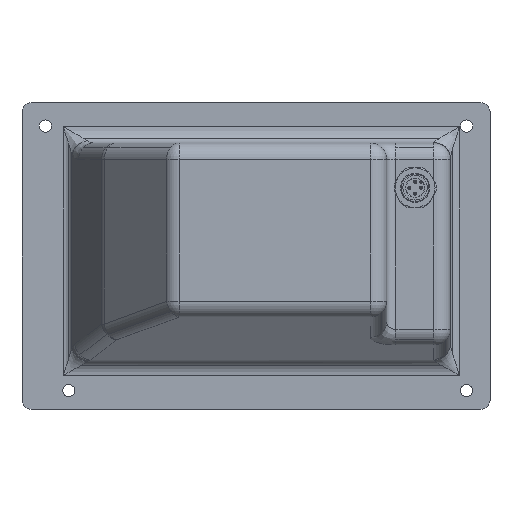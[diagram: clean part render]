
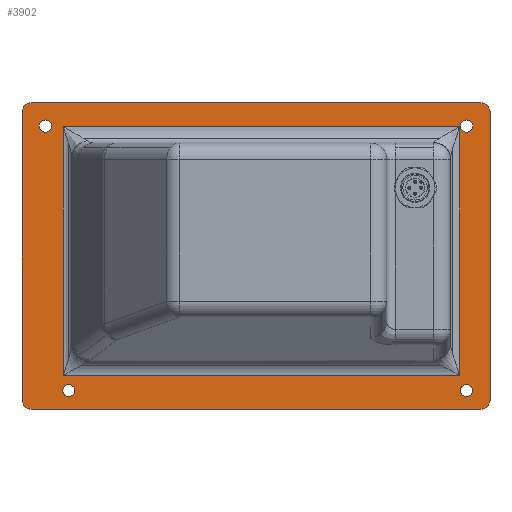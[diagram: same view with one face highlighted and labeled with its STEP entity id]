
A CAD part, left-side view. The second image highlights one B-rep face of the part: STEP entity #3902.
In plain terms, the highlighted planar face has unit normal (-1, 0, 0).
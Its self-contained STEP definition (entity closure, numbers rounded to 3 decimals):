
#2018=CARTESIAN_POINT('',(-14.,82.6,-57.55));
#2019=VERTEX_POINT('',#2018);
#2028=CARTESIAN_POINT('',(-14.,77.4,-57.55));
#2029=VERTEX_POINT('',#2028);
#2030=CARTESIAN_POINT('',(-14.,80.,-57.55));
#2031=DIRECTION('',(1.0,0.0,0.0));
#2032=DIRECTION('',(0.0,1.0,0.0));
#2033=AXIS2_PLACEMENT_3D('',#2030,#2031,#2032);
#2034=CIRCLE('',#2033,2.6);
#2035=EDGE_CURVE('',#2029,#2019,#2034,.T.);
#2143=CARTESIAN_POINT('',(-14.,-87.4,55.55));
#2144=VERTEX_POINT('',#2143);
#2153=CARTESIAN_POINT('',(-14.,-92.6,55.55));
#2154=VERTEX_POINT('',#2153);
#2155=CARTESIAN_POINT('',(-14.,-90.0,55.55));
#2156=DIRECTION('',(1.0,0.0,0.0));
#2157=DIRECTION('',(0.0,1.0,0.0));
#2158=AXIS2_PLACEMENT_3D('',#2155,#2156,#2157);
#2159=CIRCLE('',#2158,2.6);
#2160=EDGE_CURVE('',#2154,#2144,#2159,.T.);
#2259=CARTESIAN_POINT('',(-14.,92.6,55.55));
#2260=VERTEX_POINT('',#2259);
#2269=CARTESIAN_POINT('',(-14.,87.4,55.55));
#2270=VERTEX_POINT('',#2269);
#2271=CARTESIAN_POINT('',(-14.,90.0,55.55));
#2272=DIRECTION('',(1.0,0.0,0.0));
#2273=DIRECTION('',(0.0,1.0,0.0));
#2274=AXIS2_PLACEMENT_3D('',#2271,#2272,#2273);
#2275=CIRCLE('',#2274,2.6);
#2276=EDGE_CURVE('',#2270,#2260,#2275,.T.);
#2375=CARTESIAN_POINT('',(-14.,-87.4,-57.55));
#2376=VERTEX_POINT('',#2375);
#2385=CARTESIAN_POINT('',(-14.,-92.6,-57.55));
#2386=VERTEX_POINT('',#2385);
#2387=CARTESIAN_POINT('',(-14.,-90.,-57.55));
#2388=DIRECTION('',(1.0,0.0,0.0));
#2389=DIRECTION('',(0.0,1.0,0.0));
#2390=AXIS2_PLACEMENT_3D('',#2387,#2388,#2389);
#2391=CIRCLE('',#2390,2.6);
#2392=EDGE_CURVE('',#2386,#2376,#2391,.T.);
#2573=CARTESIAN_POINT('',(-14.,-87.,55.25));
#2574=VERTEX_POINT('',#2573);
#2584=CARTESIAN_POINT('',(-14.,82.38,55.25));
#2585=VERTEX_POINT('',#2584);
#2586=CARTESIAN_POINT('',(-14.,-87.,55.25));
#2587=DIRECTION('',(0.0,1.0,0.0));
#2588=VECTOR('',#2587,169.38);
#2589=LINE('',#2586,#2588);
#2590=EDGE_CURVE('',#2574,#2585,#2589,.T.);
#2892=CARTESIAN_POINT('',(-14.,-87.,-51.104));
#2893=VERTEX_POINT('',#2892);
#2907=CARTESIAN_POINT('',(-14.,-87.,55.25));
#2908=DIRECTION('',(0.0,0.0,-1.0));
#2909=VECTOR('',#2908,106.354);
#2910=LINE('',#2907,#2909);
#2911=EDGE_CURVE('',#2574,#2893,#2910,.T.);
#3058=CARTESIAN_POINT('',(-14.,98.828,64.378));
#3059=VERTEX_POINT('',#3058);
#3075=CARTESIAN_POINT('',(-14.,100.0,61.55));
#3076=VERTEX_POINT('',#3075);
#3083=CARTESIAN_POINT('',(-14.,96.0,61.55));
#3084=DIRECTION('',(1.0,0.0,0.0));
#3085=DIRECTION('',(0.0,0.707,0.707));
#3086=AXIS2_PLACEMENT_3D('',#3083,#3084,#3085);
#3087=CIRCLE('',#3086,4.);
#3088=EDGE_CURVE('',#3076,#3059,#3087,.T.);
#3100=CARTESIAN_POINT('',(-14.,98.828,-64.378));
#3101=VERTEX_POINT('',#3100);
#3117=CARTESIAN_POINT('',(-14.,96.0,-65.55));
#3118=VERTEX_POINT('',#3117);
#3125=CARTESIAN_POINT('',(-14.,96.0,-61.55));
#3126=DIRECTION('',(1.0,0.,0.));
#3127=DIRECTION('',(0.,0.707,-0.707));
#3128=AXIS2_PLACEMENT_3D('',#3125,#3126,#3127);
#3129=CIRCLE('',#3128,4.);
#3130=EDGE_CURVE('',#3118,#3101,#3129,.T.);
#3184=CARTESIAN_POINT('',(-14.,-98.828,64.378));
#3185=VERTEX_POINT('',#3184);
#3201=CARTESIAN_POINT('',(-14.,-96.,65.55));
#3202=VERTEX_POINT('',#3201);
#3209=CARTESIAN_POINT('',(-14.,-96.,61.55));
#3210=DIRECTION('',(1.0,0.0,0.0));
#3211=DIRECTION('',(0.0,-0.707,0.707));
#3212=AXIS2_PLACEMENT_3D('',#3209,#3210,#3211);
#3213=CIRCLE('',#3212,4.);
#3214=EDGE_CURVE('',#3202,#3185,#3213,.T.);
#3266=CARTESIAN_POINT('',(-14.,-98.828,-64.378));
#3267=VERTEX_POINT('',#3266);
#3283=CARTESIAN_POINT('',(-14.,-100.,-61.55));
#3284=VERTEX_POINT('',#3283);
#3291=CARTESIAN_POINT('',(-14.,-96.,-61.55));
#3292=DIRECTION('',(1.0,0.,0.));
#3293=DIRECTION('',(0.,-0.707,-0.707));
#3294=AXIS2_PLACEMENT_3D('',#3291,#3292,#3293);
#3295=CIRCLE('',#3294,4.);
#3296=EDGE_CURVE('',#3284,#3267,#3295,.T.);
#3567=CARTESIAN_POINT('',(-14.,-96.,-65.55));
#3568=VERTEX_POINT('',#3567);
#3569=CARTESIAN_POINT('',(-14.,-96.,-61.55));
#3570=DIRECTION('',(1.0,0.,0.));
#3571=DIRECTION('',(0.,-0.707,-0.707));
#3572=AXIS2_PLACEMENT_3D('',#3569,#3570,#3571);
#3573=CIRCLE('',#3572,4.);
#3574=EDGE_CURVE('',#3267,#3568,#3573,.T.);
#3609=CARTESIAN_POINT('',(-14.,-100.,61.55));
#3610=VERTEX_POINT('',#3609);
#3611=CARTESIAN_POINT('',(-14.,-96.,61.55));
#3612=DIRECTION('',(1.0,0.0,0.0));
#3613=DIRECTION('',(0.0,-0.707,0.707));
#3614=AXIS2_PLACEMENT_3D('',#3611,#3612,#3613);
#3615=CIRCLE('',#3614,4.);
#3616=EDGE_CURVE('',#3185,#3610,#3615,.T.);
#3651=CARTESIAN_POINT('',(-14.,100.0,-61.55));
#3652=VERTEX_POINT('',#3651);
#3653=CARTESIAN_POINT('',(-14.,96.0,-61.55));
#3654=DIRECTION('',(1.0,0.,0.));
#3655=DIRECTION('',(0.,0.707,-0.707));
#3656=AXIS2_PLACEMENT_3D('',#3653,#3654,#3655);
#3657=CIRCLE('',#3656,4.);
#3658=EDGE_CURVE('',#3101,#3652,#3657,.T.);
#3676=CARTESIAN_POINT('',(-14.,96.0,65.55));
#3677=VERTEX_POINT('',#3676);
#3678=CARTESIAN_POINT('',(-14.,96.0,61.55));
#3679=DIRECTION('',(1.0,0.0,0.0));
#3680=DIRECTION('',(0.0,0.707,0.707));
#3681=AXIS2_PLACEMENT_3D('',#3678,#3679,#3680);
#3682=CIRCLE('',#3681,4.);
#3683=EDGE_CURVE('',#3059,#3677,#3682,.T.);
#3789=CARTESIAN_POINT('',(-14.,-100.,61.55));
#3790=DIRECTION('',(0.0,0.0,-1.0));
#3791=VECTOR('',#3790,123.1);
#3792=LINE('',#3789,#3791);
#3793=EDGE_CURVE('',#3610,#3284,#3792,.T.);
#3806=CARTESIAN_POINT('',(-14.,96.0,65.55));
#3807=DIRECTION('',(0.0,-1.0,0.0));
#3808=VECTOR('',#3807,192.);
#3809=LINE('',#3806,#3808);
#3810=EDGE_CURVE('',#3677,#3202,#3809,.T.);
#3815=CARTESIAN_POINT('',(-14.,-100.,0.0));
#3816=DIRECTION('',(-1.0,0.0,0.0));
#3817=DIRECTION('',(0.0,0.0,1.0));
#3818=AXIS2_PLACEMENT_3D('',#3815,#3816,#3817);
#3819=PLANE('',#3818);
#3820=ORIENTED_EDGE('',*,*,#3296,.F.);
#3821=ORIENTED_EDGE('',*,*,#3793,.F.);
#3822=ORIENTED_EDGE('',*,*,#3616,.F.);
#3823=ORIENTED_EDGE('',*,*,#3214,.F.);
#3824=ORIENTED_EDGE('',*,*,#3810,.F.);
#3825=ORIENTED_EDGE('',*,*,#3683,.F.);
#3826=ORIENTED_EDGE('',*,*,#3088,.F.);
#3827=CARTESIAN_POINT('',(-14.,100.0,-61.55));
#3828=DIRECTION('',(0.0,0.0,1.0));
#3829=VECTOR('',#3828,123.1);
#3830=LINE('',#3827,#3829);
#3831=EDGE_CURVE('',#3652,#3076,#3830,.T.);
#3832=ORIENTED_EDGE('',*,*,#3831,.F.);
#3833=ORIENTED_EDGE('',*,*,#3658,.F.);
#3834=ORIENTED_EDGE('',*,*,#3130,.F.);
#3835=CARTESIAN_POINT('',(-14.,-96.,-65.55));
#3836=DIRECTION('',(0.0,1.0,0.0));
#3837=VECTOR('',#3836,192.);
#3838=LINE('',#3835,#3837);
#3839=EDGE_CURVE('',#3568,#3118,#3838,.T.);
#3840=ORIENTED_EDGE('',*,*,#3839,.F.);
#3841=ORIENTED_EDGE('',*,*,#3574,.F.);
#3842=EDGE_LOOP('',(#3820,#3821,#3822,#3823,#3824,#3825,#3826,#3832,#3833,#3834,#3840,#3841));
#3843=FACE_OUTER_BOUND('',#3842,.T.);
#3844=ORIENTED_EDGE('',*,*,#2392,.T.);
#3845=CARTESIAN_POINT('',(-14.,-90.,-57.55));
#3846=DIRECTION('',(1.0,0.0,0.0));
#3847=DIRECTION('',(0.0,1.0,0.0));
#3848=AXIS2_PLACEMENT_3D('',#3845,#3846,#3847);
#3849=CIRCLE('',#3848,2.6);
#3850=EDGE_CURVE('',#2376,#2386,#3849,.T.);
#3851=ORIENTED_EDGE('',*,*,#3850,.T.);
#3852=EDGE_LOOP('',(#3844,#3851));
#3853=FACE_BOUND('',#3852,.T.);
#3854=ORIENTED_EDGE('',*,*,#2276,.T.);
#3855=CARTESIAN_POINT('',(-14.,90.0,55.55));
#3856=DIRECTION('',(1.0,0.0,0.0));
#3857=DIRECTION('',(0.0,1.0,0.0));
#3858=AXIS2_PLACEMENT_3D('',#3855,#3856,#3857);
#3859=CIRCLE('',#3858,2.6);
#3860=EDGE_CURVE('',#2260,#2270,#3859,.T.);
#3861=ORIENTED_EDGE('',*,*,#3860,.T.);
#3862=EDGE_LOOP('',(#3854,#3861));
#3863=FACE_BOUND('',#3862,.T.);
#3864=ORIENTED_EDGE('',*,*,#2160,.T.);
#3865=CARTESIAN_POINT('',(-14.,-90.0,55.55));
#3866=DIRECTION('',(1.0,0.0,0.0));
#3867=DIRECTION('',(0.0,1.0,0.0));
#3868=AXIS2_PLACEMENT_3D('',#3865,#3866,#3867);
#3869=CIRCLE('',#3868,2.6);
#3870=EDGE_CURVE('',#2144,#2154,#3869,.T.);
#3871=ORIENTED_EDGE('',*,*,#3870,.T.);
#3872=EDGE_LOOP('',(#3864,#3871));
#3873=FACE_BOUND('',#3872,.T.);
#3874=ORIENTED_EDGE('',*,*,#2035,.T.);
#3875=CARTESIAN_POINT('',(-14.,80.,-57.55));
#3876=DIRECTION('',(1.0,0.0,0.0));
#3877=DIRECTION('',(0.0,1.0,0.0));
#3878=AXIS2_PLACEMENT_3D('',#3875,#3876,#3877);
#3879=CIRCLE('',#3878,2.6);
#3880=EDGE_CURVE('',#2019,#2029,#3879,.T.);
#3881=ORIENTED_EDGE('',*,*,#3880,.T.);
#3882=EDGE_LOOP('',(#3874,#3881));
#3883=FACE_BOUND('',#3882,.T.);
#3884=CARTESIAN_POINT('',(-14.,82.38,-51.104));
#3885=VERTEX_POINT('',#3884);
#3886=CARTESIAN_POINT('',(-14.,82.38,55.25));
#3887=DIRECTION('',(0.0,0.0,-1.0));
#3888=VECTOR('',#3887,106.354);
#3889=LINE('',#3886,#3888);
#3890=EDGE_CURVE('',#2585,#3885,#3889,.T.);
#3891=ORIENTED_EDGE('',*,*,#3890,.F.);
#3892=ORIENTED_EDGE('',*,*,#2590,.F.);
#3893=ORIENTED_EDGE('',*,*,#2911,.T.);
#3894=CARTESIAN_POINT('',(-14.,82.38,-51.104));
#3895=DIRECTION('',(0.0,-1.0,0.0));
#3896=VECTOR('',#3895,169.38);
#3897=LINE('',#3894,#3896);
#3898=EDGE_CURVE('',#3885,#2893,#3897,.T.);
#3899=ORIENTED_EDGE('',*,*,#3898,.F.);
#3900=EDGE_LOOP('',(#3891,#3892,#3893,#3899));
#3901=FACE_BOUND('',#3900,.T.);
#3902=ADVANCED_FACE('',(#3843,#3853,#3863,#3873,#3883,#3901),#3819,.T.);
